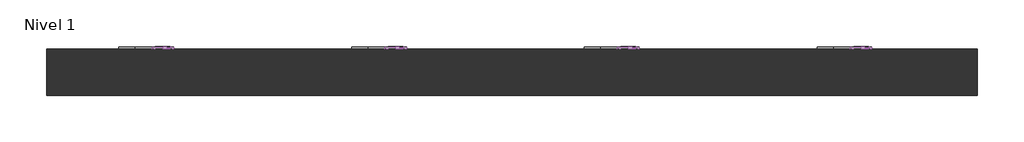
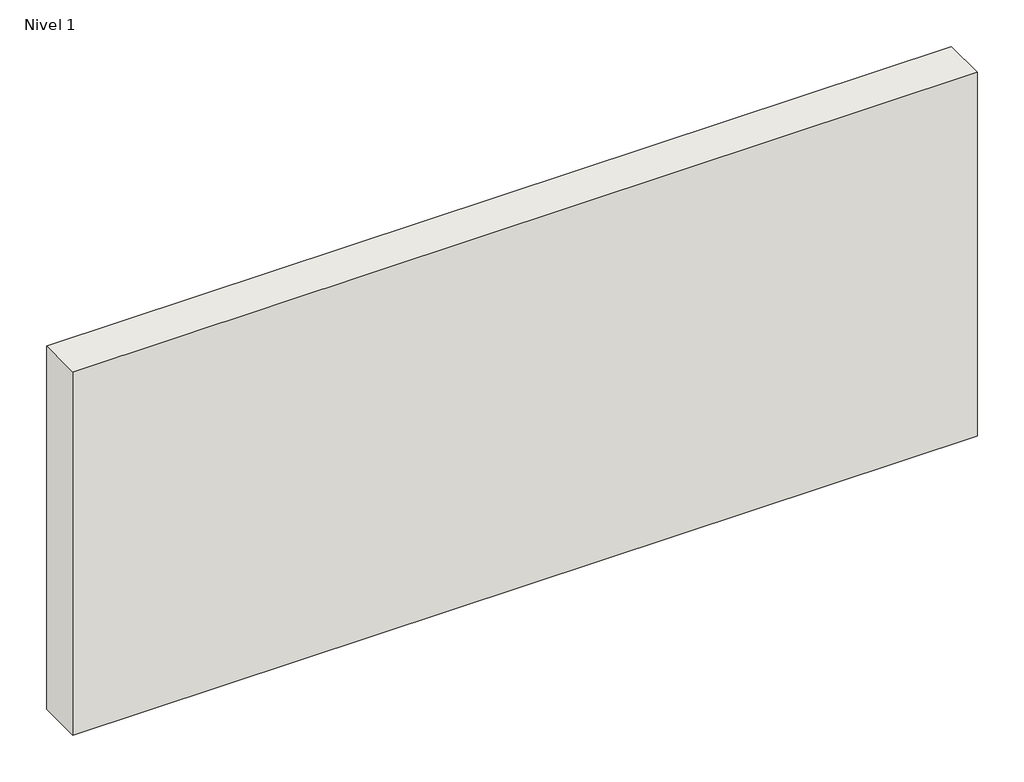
# One storey, incomplete: 20 proxies, 1 wall.
"""IFC4 building model written with IfcOpenShell, lengths in millimetres."""

from ifc_helpers import new_model, si_unit, origin, place, context, project, spatial, faceted_brep, transform, mapped, element, save
from components import electrical_fixtures_0a816f9b, electrical_fixtures_60172af4, electrical_fixtures_d58893ed, proxy_1_elemento_e30dc943, proxy_1_elemento_b6ed8073

model = new_model("IFC4")

# Units and contexts
model_context = context("Model", 3, world=origin())
ifc_project = project(units=[si_unit("LENGTHUNIT", "METRE", prefix="MILLI")], contexts=[model_context])

# Site, building, storey
site = spatial("IfcSite", under=ifc_project)
building = spatial("IfcBuilding", under=site)
storey = spatial("IfcBuildingStorey", under=building, Name="Nivel 1", Elevation=0.0)

# Proxies
placement = place(None, origin())
electrical_fixtures_shape = electrical_fixtures_0a816f9b(model_context)
element("IfcBuildingElementProxy", 1, Name="Iris_Plus_AluminioMercurio : Marco 1 elemento", ObjectType="Iris_Plus_AluminioMercurio : Marco 1 elemento", at=placement, inside=storey, context=model_context, shape_type="MappedRepresentation", body=[
    mapped(electrical_fixtures_shape, transform((1775.225842, 102.7534355, 357.5218426), x_axis=(1.0, 0.0, 0.0), y_axis=(0.0, 1.0, 0.0), z_axis=(0.0, 0.0, 1.0))),
])
electrical_fixtures_2_shape = electrical_fixtures_60172af4(model_context)
element("IfcBuildingElementProxy", 2, Name="Iris_Plus_AluminioMercurio : Marco 2 elementos", ObjectType="Iris_Plus_AluminioMercurio : Marco 2 elementos", at=placement, inside=storey, context=model_context, shape_type="MappedRepresentation", body=[
    mapped(electrical_fixtures_2_shape, transform((1775.225842, 102.7534355, -103.240864), x_axis=(1.0, 0.0, 0.0), y_axis=(0.0, 1.0, 0.0), z_axis=(0.0, 0.0, 1.0))),
])
electrical_fixtures_3_shape = electrical_fixtures_d58893ed(model_context)
element("IfcBuildingElementProxy", 3, Name="Iris_Plus_AluminioMercurio : Marco 3 elementos", ObjectType="Iris_Plus_AluminioMercurio : Marco 3 elementos", at=placement, inside=storey, context=model_context, shape_type="MappedRepresentation", body=[
    mapped(electrical_fixtures_3_shape, transform((1775.225842, 102.7534355, -564.0035707), x_axis=(1.0, 0.0, 0.0), y_axis=(0.0, 1.0, 0.0), z_axis=(0.0, 0.0, 1.0))),
])
element("IfcBuildingElementProxy", 4, Name="Iris_Plus_Antracita : Marco 1 elemento", ObjectType="Iris_Plus_Antracita : Marco 1 elemento", at=placement, inside=storey, context=model_context, shape_type="MappedRepresentation", body=[
    mapped(electrical_fixtures_shape, transform((775.225842, 102.7534355, 357.5218426), x_axis=(1.0, 0.0, 0.0), y_axis=(0.0, 1.0, 0.0), z_axis=(0.0, 0.0, 1.0))),
])
element("IfcBuildingElementProxy", 5, Name="Iris_Plus_Antracita : Marco 2 elementos", ObjectType="Iris_Plus_Antracita : Marco 2 elementos", at=placement, inside=storey, context=model_context, shape_type="MappedRepresentation", body=[
    mapped(electrical_fixtures_2_shape, transform((775.225842, 102.7534355, -103.240864), x_axis=(1.0, 0.0, 0.0), y_axis=(0.0, 1.0, 0.0), z_axis=(0.0, 0.0, 1.0))),
])
element("IfcBuildingElementProxy", 6, Name="Iris_Plus_Antracita : Marco 3 elementos", ObjectType="Iris_Plus_Antracita : Marco 3 elementos", at=placement, inside=storey, context=model_context, shape_type="MappedRepresentation", body=[
    mapped(electrical_fixtures_3_shape, transform((775.225842, 102.7534355, -564.0035707), x_axis=(1.0, 0.0, 0.0), y_axis=(0.0, 1.0, 0.0), z_axis=(0.0, 0.0, 1.0))),
])
element("IfcBuildingElementProxy", 7, Name="Iris_Plus_Blanco : Marco 1 elemento", ObjectType="Iris_Plus_Blanco : Marco 1 elemento", at=placement, inside=storey, context=model_context, shape_type="MappedRepresentation", body=[
    mapped(electrical_fixtures_shape, transform((-224.774158, 102.7534355, 357.5218426), x_axis=(1.0, 0.0, 0.0), y_axis=(0.0, 1.0, 0.0), z_axis=(0.0, 0.0, 1.0))),
])
element("IfcBuildingElementProxy", 8, Name="Iris_Plus_Blanco : Marco 2 elementos", ObjectType="Iris_Plus_Blanco : Marco 2 elementos", at=placement, inside=storey, context=model_context, shape_type="MappedRepresentation", body=[
    mapped(electrical_fixtures_2_shape, transform((-224.774158, 102.7534355, -103.240864), x_axis=(1.0, 0.0, 0.0), y_axis=(0.0, 1.0, 0.0), z_axis=(0.0, 0.0, 1.0))),
])
element("IfcBuildingElementProxy", 9, Name="Iris_Plus_Blanco : Marco 3 elementos", ObjectType="Iris_Plus_Blanco : Marco 3 elementos", at=placement, inside=storey, context=model_context, shape_type="MappedRepresentation", body=[
    mapped(electrical_fixtures_3_shape, transform((-224.774158, 102.7534355, -564.0035707), x_axis=(1.0, 0.0, 0.0), y_axis=(0.0, 1.0, 0.0), z_axis=(0.0, 0.0, 1.0))),
])
element("IfcBuildingElementProxy", 10, Name="Iris_Plus_Chocolate : Marco 1 elemento", ObjectType="Iris_Plus_Chocolate : Marco 1 elemento", at=placement, inside=storey, context=model_context, shape_type="MappedRepresentation", body=[
    mapped(electrical_fixtures_shape, transform((-1224.774158, 102.7534355, 357.5218426), x_axis=(1.0, 0.0, 0.0), y_axis=(0.0, 1.0, 0.0), z_axis=(0.0, 0.0, 1.0))),
])
element("IfcBuildingElementProxy", 11, Name="Iris_Plus_Chocolate : Marco 2 elementos", ObjectType="Iris_Plus_Chocolate : Marco 2 elementos", at=placement, inside=storey, context=model_context, shape_type="MappedRepresentation", body=[
    mapped(electrical_fixtures_2_shape, transform((-1224.774158, 102.7534355, -103.240864), x_axis=(1.0, 0.0, 0.0), y_axis=(0.0, 1.0, 0.0), z_axis=(0.0, 0.0, 1.0))),
])
element("IfcBuildingElementProxy", 12, Name="Iris_Plus_Chocolate : Marco 3 elementos", ObjectType="Iris_Plus_Chocolate : Marco 3 elementos", at=placement, inside=storey, context=model_context, shape_type="MappedRepresentation", body=[
    mapped(electrical_fixtures_3_shape, transform((-1224.774158, 102.7534355, -564.0035707), x_axis=(1.0, 0.0, 0.0), y_axis=(0.0, 1.0, 0.0), z_axis=(0.0, 0.0, 1.0))),
])
proxy_1_elemento_shape = proxy_1_elemento_e30dc943(model_context)
element("IfcBuildingElementProxy", 13, Name="IrisPlus_Blanco_DobleInterruptor : 1 Elemento", ObjectType="IrisPlus_Blanco_DobleInterruptor : 1 Elemento", at=placement, inside=storey, context=model_context, shape_type="MappedRepresentation", body=[
    mapped(proxy_1_elemento_shape, transform((-99.774158, 202.7534355, 1357.5218426), x_axis=(-1.0, 0.0, 0.0), y_axis=(0.0, 0.0, 1.0), z_axis=(0.0, 1.0, 0.0))),
])
proxy_1_elemento_2_shape = proxy_1_elemento_b6ed8073(model_context)
element("IfcBuildingElementProxy", 14, Name="IrisPlus_Blanco_PulsadorLuz : 1 Elemento", ObjectType="IrisPlus_Blanco_PulsadorLuz : 1 Elemento", at=placement, inside=storey, context=model_context, shape_type="MappedRepresentation", body=[
    mapped(proxy_1_elemento_2_shape, transform((-99.774158, 202.7534355, 435.9964293), x_axis=(-1.0, 0.0, 0.0), y_axis=(0.0, 0.0, 1.0), z_axis=(0.0, 1.0, 0.0))),
])
element("IfcBuildingElementProxy", 15, Name="IrisPlus_Antracita_DobleInterruptor : 1 Elemento", ObjectType="IrisPlus_Antracita_DobleInterruptor : 1 Elemento", at=placement, inside=storey, context=model_context, shape_type="MappedRepresentation", body=[
    mapped(proxy_1_elemento_shape, transform((900.225842, 202.7534355, 1357.5218426), x_axis=(-1.0, 0.0, 0.0), y_axis=(0.0, 0.0, 1.0), z_axis=(0.0, 1.0, 0.0))),
])
element("IfcBuildingElementProxy", 16, Name="IrisPlus_Antracita_PulsadorLuz : 1 Elemento", ObjectType="IrisPlus_Antracita_PulsadorLuz : 1 Elemento", at=placement, inside=storey, context=model_context, shape_type="MappedRepresentation", body=[
    mapped(proxy_1_elemento_2_shape, transform((900.225842, 202.7534355, 435.9964293), x_axis=(-1.0, 0.0, 0.0), y_axis=(0.0, 0.0, 1.0), z_axis=(0.0, 1.0, 0.0))),
])
element("IfcBuildingElementProxy", 17, Name="IrisPlus_AluminioMercurio_DobleInterruptor : 1 Elemento", ObjectType="IrisPlus_AluminioMercurio_DobleInterruptor : 1 Elemento", at=placement, inside=storey, context=model_context, shape_type="MappedRepresentation", body=[
    mapped(proxy_1_elemento_shape, transform((1900.225842, 202.7534355, 1357.5218426), x_axis=(-1.0, 0.0, 0.0), y_axis=(0.0, 0.0, 1.0), z_axis=(0.0, 1.0, 0.0))),
])
element("IfcBuildingElementProxy", 18, Name="IrisPlus_AluminioMercurio_PulsadorLuz : 1 Elemento", ObjectType="IrisPlus_AluminioMercurio_PulsadorLuz : 1 Elemento", at=placement, inside=storey, context=model_context, shape_type="MappedRepresentation", body=[
    mapped(proxy_1_elemento_2_shape, transform((1900.225842, 202.7534355, 435.9964293), x_axis=(-1.0, 0.0, 0.0), y_axis=(0.0, 0.0, 1.0), z_axis=(0.0, 1.0, 0.0))),
])
element("IfcBuildingElementProxy", 19, Name="IrisPlus_Chocolate_DobleInterruptor : 1 Elemento", ObjectType="IrisPlus_Chocolate_DobleInterruptor : 1 Elemento", at=placement, inside=storey, context=model_context, shape_type="MappedRepresentation", body=[
    mapped(proxy_1_elemento_shape, transform((-1099.774158, 202.7534355, 1357.5218426), x_axis=(-1.0, 0.0, 0.0), y_axis=(0.0, 0.0, 1.0), z_axis=(0.0, 1.0, 0.0))),
])
element("IfcBuildingElementProxy", 20, Name="IrisPlus_Chocolate_PulsadorLuz : 1 Elemento", ObjectType="IrisPlus_Chocolate_PulsadorLuz : 1 Elemento", at=placement, inside=storey, context=model_context, shape_type="MappedRepresentation", body=[
    mapped(proxy_1_elemento_2_shape, transform((-1099.774158, 202.7534355, 435.9964293), x_axis=(-1.0, 0.0, 0.0), y_axis=(0.0, 0.0, 1.0), z_axis=(0.0, 1.0, 0.0))),
])

# Wall
element("IfcWall", 21, ObjectType="Por defecto - 20 cm", at=placement, inside=storey, context=model_context, shape_type="Brep", body=[
    faceted_brep([(-1599.774158, 2.7534355, 0.0), (2400.225842, 2.7534355, 0.0), (2400.225842, 2.7534355, 1700.0), (-1599.774158, 2.7534355, 1700.0), (-1599.774158, 202.7534355, 0.0), (-1599.774158, 202.7534355, 1700.0), (2400.225842, 202.7534355, 1700.0), (2400.225842, 202.7534355, 0.0), (1862.575842, 202.7534355, 1320.0218426), (1937.875842, 202.7534355, 1320.0218426), (1937.875842, 202.7534355, 1395.0218426), (1862.575842, 202.7534355, 1395.0218426), (1791.875842, 202.7534355, 859.259136), (1937.875842, 202.7534355, 859.259136), (1937.875842, 202.7534355, 934.259136), (1791.875842, 202.7534355, 934.259136), (1720.875842, 202.7534355, 398.4964293), (1937.875842, 202.7534355, 398.4964293), (1937.875842, 202.7534355, 473.4964293), (1720.875842, 202.7534355, 473.4964293), (862.575842, 202.7534355, 1320.0218426), (937.875842, 202.7534355, 1320.0218426), (937.875842, 202.7534355, 1395.0218426), (862.575842, 202.7534355, 1395.0218426), (791.875842, 202.7534355, 859.259136), (937.875842, 202.7534355, 859.259136), (937.875842, 202.7534355, 934.259136), (791.875842, 202.7534355, 934.259136), (720.875842, 202.7534355, 398.4964293), (937.875842, 202.7534355, 398.4964293), (937.875842, 202.7534355, 473.4964293), (720.875842, 202.7534355, 473.4964293), (-137.424158, 202.7534355, 1320.0218426), (-62.124158, 202.7534355, 1320.0218426), (-62.124158, 202.7534355, 1395.0218426), (-137.424158, 202.7534355, 1395.0218426), (-208.124158, 202.7534355, 859.259136), (-62.124158, 202.7534355, 859.259136), (-62.124158, 202.7534355, 934.259136), (-208.124158, 202.7534355, 934.259136), (-279.124158, 202.7534355, 398.4964293), (-62.124158, 202.7534355, 398.4964293), (-62.124158, 202.7534355, 473.4964293), (-279.124158, 202.7534355, 473.4964293), (-1137.424158, 202.7534355, 1320.0218426), (-1062.124158, 202.7534355, 1320.0218426), (-1062.124158, 202.7534355, 1395.0218426), (-1137.424158, 202.7534355, 1395.0218426), (-1208.124158, 202.7534355, 859.259136), (-1062.124158, 202.7534355, 859.259136), (-1062.124158, 202.7534355, 934.259136), (-1208.124158, 202.7534355, 934.259136), (-1279.124158, 202.7534355, 398.4964293), (-1062.124158, 202.7534355, 398.4964293), (-1062.124158, 202.7534355, 473.4964293), (-1279.124158, 202.7534355, 473.4964293), (1937.875842, 157.7534355, 1320.0218426), (1862.575842, 157.7534355, 1320.0218426), (1862.575842, 157.7534355, 1395.0218426), (1937.875842, 157.7534355, 1395.0218426), (1937.875842, 157.7534355, 859.259136), (1791.875842, 157.7534355, 859.259136), (1791.875842, 157.7534355, 934.259136), (1937.875842, 157.7534355, 934.259136), (1937.875842, 157.7534355, 398.4964293), (1720.875842, 157.7534355, 398.4964293), (1720.875842, 157.7534355, 473.4964293), (1937.875842, 157.7534355, 473.4964293), (937.875842, 157.7534355, 1320.0218426), (862.575842, 157.7534355, 1320.0218426), (862.575842, 157.7534355, 1395.0218426), (937.875842, 157.7534355, 1395.0218426), (937.875842, 157.7534355, 859.259136), (791.875842, 157.7534355, 859.259136), (791.875842, 157.7534355, 934.259136), (937.875842, 157.7534355, 934.259136), (937.875842, 157.7534355, 398.4964293), (720.875842, 157.7534355, 398.4964293), (720.875842, 157.7534355, 473.4964293), (937.875842, 157.7534355, 473.4964293), (-62.124158, 157.7534355, 1320.0218426), (-137.424158, 157.7534355, 1320.0218426), (-137.424158, 157.7534355, 1395.0218426), (-62.124158, 157.7534355, 1395.0218426), (-62.124158, 157.7534355, 859.259136), (-208.124158, 157.7534355, 859.259136), (-208.124158, 157.7534355, 934.259136), (-62.124158, 157.7534355, 934.259136), (-62.124158, 157.7534355, 398.4964293), (-279.124158, 157.7534355, 398.4964293), (-279.124158, 157.7534355, 473.4964293), (-62.124158, 157.7534355, 473.4964293), (-1062.124158, 157.7534355, 1320.0218426), (-1137.424158, 157.7534355, 1320.0218426), (-1137.424158, 157.7534355, 1395.0218426), (-1062.124158, 157.7534355, 1395.0218426), (-1062.124158, 157.7534355, 859.259136), (-1208.124158, 157.7534355, 859.259136), (-1208.124158, 157.7534355, 934.259136), (-1062.124158, 157.7534355, 934.259136), (-1062.124158, 157.7534355, 398.4964293), (-1279.124158, 157.7534355, 398.4964293), (-1279.124158, 157.7534355, 473.4964293), (-1062.124158, 157.7534355, 473.4964293)], [[[0, 1, 2, 3]], [[4, 5, 6, 7], [8, 9, 10, 11], [12, 13, 14, 15], [16, 17, 18, 19], [20, 21, 22, 23], [24, 25, 26, 27], [28, 29, 30, 31], [32, 33, 34, 35], [36, 37, 38, 39], [40, 41, 42, 43], [44, 45, 46, 47], [48, 49, 50, 51], [52, 53, 54, 55]], [[1, 0, 4, 7]], [[2, 1, 7, 6]], [[3, 2, 6, 5]], [[0, 3, 5, 4]], [[56, 57, 58, 59]], [[57, 56, 9, 8]], [[58, 57, 8, 11]], [[59, 58, 11, 10]], [[56, 59, 10, 9]], [[60, 61, 62, 63]], [[61, 60, 13, 12]], [[62, 61, 12, 15]], [[63, 62, 15, 14]], [[60, 63, 14, 13]], [[64, 65, 66, 67]], [[65, 64, 17, 16]], [[66, 65, 16, 19]], [[67, 66, 19, 18]], [[64, 67, 18, 17]], [[68, 69, 70, 71]], [[69, 68, 21, 20]], [[70, 69, 20, 23]], [[71, 70, 23, 22]], [[68, 71, 22, 21]], [[72, 73, 74, 75]], [[73, 72, 25, 24]], [[74, 73, 24, 27]], [[75, 74, 27, 26]], [[72, 75, 26, 25]], [[76, 77, 78, 79]], [[77, 76, 29, 28]], [[78, 77, 28, 31]], [[79, 78, 31, 30]], [[76, 79, 30, 29]], [[80, 81, 82, 83]], [[81, 80, 33, 32]], [[82, 81, 32, 35]], [[83, 82, 35, 34]], [[80, 83, 34, 33]], [[84, 85, 86, 87]], [[85, 84, 37, 36]], [[86, 85, 36, 39]], [[87, 86, 39, 38]], [[84, 87, 38, 37]], [[88, 89, 90, 91]], [[89, 88, 41, 40]], [[90, 89, 40, 43]], [[91, 90, 43, 42]], [[88, 91, 42, 41]], [[92, 93, 94, 95]], [[93, 92, 45, 44]], [[94, 93, 44, 47]], [[95, 94, 47, 46]], [[92, 95, 46, 45]], [[96, 97, 98, 99]], [[97, 96, 49, 48]], [[98, 97, 48, 51]], [[99, 98, 51, 50]], [[96, 99, 50, 49]], [[100, 101, 102, 103]], [[101, 100, 53, 52]], [[102, 101, 52, 55]], [[103, 102, 55, 54]], [[100, 103, 54, 53]]]),
])

save(model, "model.ifc")
